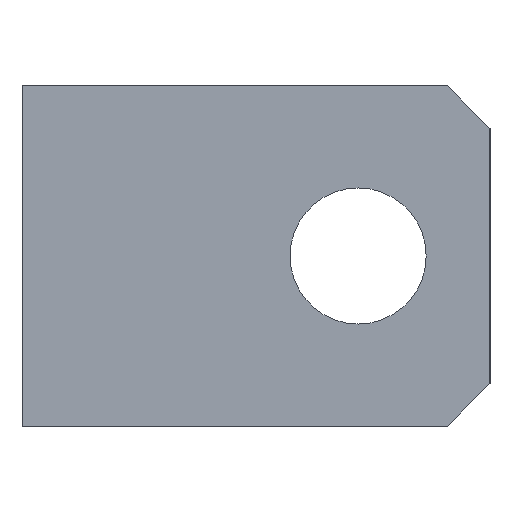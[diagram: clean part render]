
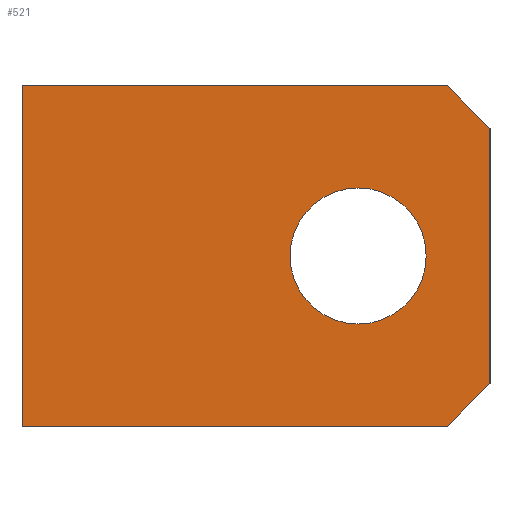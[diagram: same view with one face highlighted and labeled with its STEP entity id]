
A CAD part, left-side view. The second image highlights one B-rep face of the part: STEP entity #521.
In plain terms, the highlighted planar face has unit normal (-1, 0, 0).
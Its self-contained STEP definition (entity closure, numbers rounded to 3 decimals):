
#6 = CARTESIAN_POINT ( 'NONE',  ( -55., -43., 15. ) ) ;
#47 = AXIS2_PLACEMENT_3D ( 'NONE', #395, #892, #606 ) ;
#53 = CARTESIAN_POINT ( 'NONE',  ( -55., -43., -20. ) ) ;
#74 = CARTESIAN_POINT ( 'NONE',  ( -55., 12., 20. ) ) ;
#76 = DIRECTION ( 'NONE',  ( -1., 0., 0. ) ) ;
#84 = DIRECTION ( 'NONE',  ( 0., 0., -1. ) ) ;
#90 = VECTOR ( 'NONE', #574, 1000. ) ;
#91 = CARTESIAN_POINT ( 'NONE',  ( -55., -43., 20. ) ) ;
#98 = CARTESIAN_POINT ( 'NONE',  ( -55., -38., 20. ) ) ;
#105 = LINE ( 'NONE', #517, #90 ) ;
#118 = CIRCLE ( 'NONE', #888, 8. ) ;
#147 = DIRECTION ( 'NONE',  ( 0., 0., -1. ) ) ;
#172 = ORIENTED_EDGE ( 'NONE', *, *, #283, .F. ) ;
#252 = DIRECTION ( 'NONE',  ( 0., 0., -1. ) ) ;
#263 = ORIENTED_EDGE ( 'NONE', *, *, #439, .T. ) ;
#283 = EDGE_CURVE ( 'NONE', #493, #513, #105, .T. ) ;
#284 = AXIS2_PLACEMENT_3D ( 'NONE', #91, #367, #84 ) ;
#292 = FACE_OUTER_BOUND ( 'NONE', #397, .T. ) ;
#304 = VERTEX_POINT ( 'NONE', #861 ) ;
#305 = CARTESIAN_POINT ( 'NONE',  ( -55., -43., 20. ) ) ;
#319 = EDGE_CURVE ( 'NONE', #304, #630, #845, .T. ) ;
#325 = DIRECTION ( 'NONE',  ( 0., -1., 0. ) ) ;
#332 = ORIENTED_EDGE ( 'NONE', *, *, #705, .T. ) ;
#367 = DIRECTION ( 'NONE',  ( 1., 0., 0. ) ) ;
#386 = VERTEX_POINT ( 'NONE', #694 ) ;
#394 = VECTOR ( 'NONE', #252, 1000. ) ;
#395 = CARTESIAN_POINT ( 'NONE',  ( -55., -27.5, 0. ) ) ;
#397 = EDGE_LOOP ( 'NONE', ( #332, #263, #664, #844, #172, #895 ) ) ;
#406 = EDGE_CURVE ( 'NONE', #630, #304, #118, .T. ) ;
#407 = DIRECTION ( 'NONE',  ( 0., 0., 1. ) ) ;
#412 = CARTESIAN_POINT ( 'NONE',  ( -55., -27.5, 0. ) ) ;
#415 = VERTEX_POINT ( 'NONE', #6 ) ;
#422 = VECTOR ( 'NONE', #469, 1000. ) ;
#425 = DIRECTION ( 'NONE',  ( 0., -0.707, 0.707 ) ) ;
#439 = EDGE_CURVE ( 'NONE', #740, #386, #556, .T. ) ;
#469 = DIRECTION ( 'NONE',  ( 0., 0.707, 0.707 ) ) ;
#493 = VERTEX_POINT ( 'NONE', #506 ) ;
#506 = CARTESIAN_POINT ( 'NONE',  ( -55., 12., 20. ) ) ;
#513 = VERTEX_POINT ( 'NONE', #98 ) ;
#517 = CARTESIAN_POINT ( 'NONE',  ( -55., -43., 20. ) ) ;
#521 = ADVANCED_FACE ( 'NONE', ( #655, #292 ), #713, .F. ) ;
#545 = CARTESIAN_POINT ( 'NONE',  ( -55., -38., -20. ) ) ;
#556 = LINE ( 'NONE', #754, #637 ) ;
#567 = VECTOR ( 'NONE', #147, 1000. ) ;
#574 = DIRECTION ( 'NONE',  ( 0., -1., 0. ) ) ;
#584 = LINE ( 'NONE', #305, #394 ) ;
#588 = EDGE_CURVE ( 'NONE', #415, #513, #811, .T. ) ;
#597 = VECTOR ( 'NONE', #325, 1000. ) ;
#605 = LINE ( 'NONE', #53, #597 ) ;
#606 = DIRECTION ( 'NONE',  ( 0., 0., 1. ) ) ;
#630 = VERTEX_POINT ( 'NONE', #741 ) ;
#637 = VECTOR ( 'NONE', #425, 1000. ) ;
#655 = FACE_BOUND ( 'NONE', #777, .T. ) ;
#664 = ORIENTED_EDGE ( 'NONE', *, *, #894, .F. ) ;
#671 = ORIENTED_EDGE ( 'NONE', *, *, #319, .F. ) ;
#694 = CARTESIAN_POINT ( 'NONE',  ( -55., -43., -15. ) ) ;
#698 = LINE ( 'NONE', #74, #567 ) ;
#705 = EDGE_CURVE ( 'NONE', #867, #740, #605, .T. ) ;
#713 = PLANE ( 'NONE',  #284 ) ;
#740 = VERTEX_POINT ( 'NONE', #545 ) ;
#741 = CARTESIAN_POINT ( 'NONE',  ( -55., -27.5, 8. ) ) ;
#754 = CARTESIAN_POINT ( 'NONE',  ( -55., -43., -15. ) ) ;
#777 = EDGE_LOOP ( 'NONE', ( #796, #671 ) ) ;
#778 = CARTESIAN_POINT ( 'NONE',  ( -55., 12., -20. ) ) ;
#796 = ORIENTED_EDGE ( 'NONE', *, *, #406, .F. ) ;
#799 = CARTESIAN_POINT ( 'NONE',  ( -55., -38., 20. ) ) ;
#806 = EDGE_CURVE ( 'NONE', #493, #867, #698, .T. ) ;
#811 = LINE ( 'NONE', #799, #422 ) ;
#844 = ORIENTED_EDGE ( 'NONE', *, *, #588, .T. ) ;
#845 = CIRCLE ( 'NONE', #47, 8. ) ;
#861 = CARTESIAN_POINT ( 'NONE',  ( -55., -27.5, -8. ) ) ;
#867 = VERTEX_POINT ( 'NONE', #778 ) ;
#888 = AXIS2_PLACEMENT_3D ( 'NONE', #412, #76, #407 ) ;
#892 = DIRECTION ( 'NONE',  ( -1., 0., 0. ) ) ;
#894 = EDGE_CURVE ( 'NONE', #415, #386, #584, .T. ) ;
#895 = ORIENTED_EDGE ( 'NONE', *, *, #806, .T. ) ;
